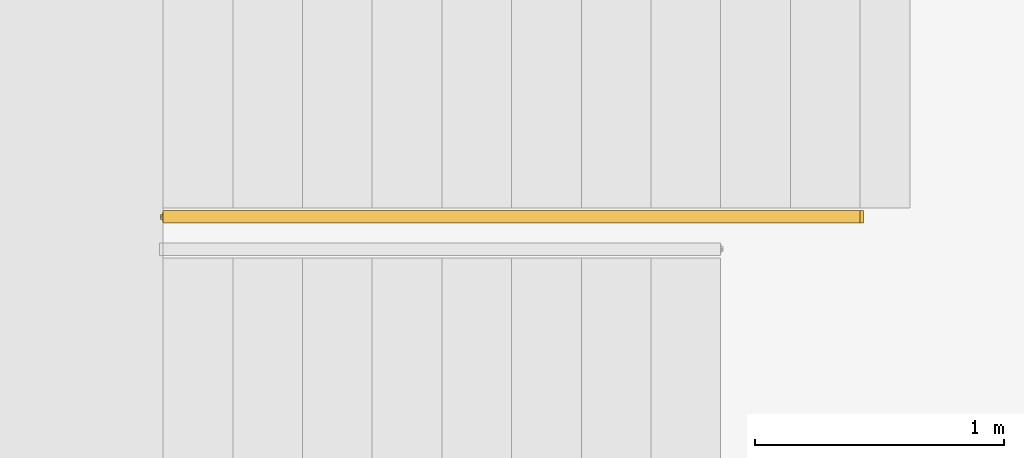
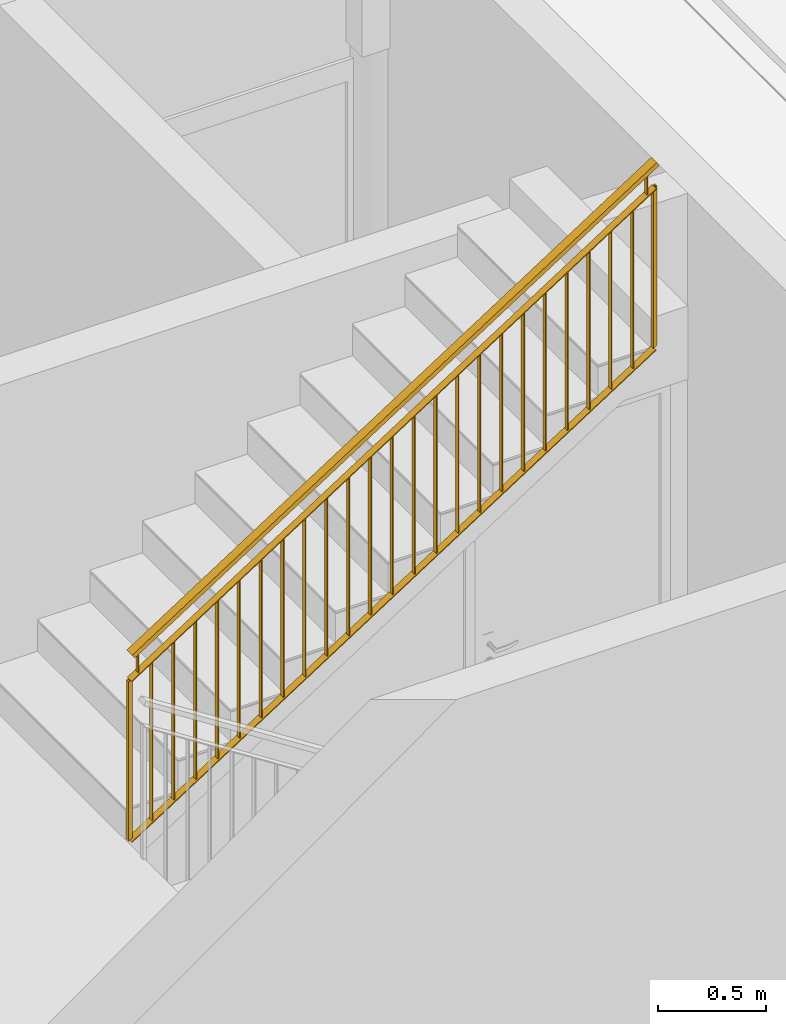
# One storey, part 16 of 25: 1 railing.
"""IFC2X3 building model written with IfcOpenShell, lengths in millimetres."""

from ifc_helpers import new_model, entity, si_unit, converted_unit, derived_unit, money_unit, direction, frame, origin_with_axes, place, context, subcontext, project, spatial, faceted_brep, material, material_list, type_object, element, save


model = new_model("IFC2X3")

# Units and contexts
model_context = context("Model", 3, precision=0.01, world=origin_with_axes(), true_north=direction((0.34421633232, 0.938890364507)))
body_context = subcontext(model_context, "Body", "Model", "MODEL_VIEW")
ifc_project = project(units=[si_unit("LENGTHUNIT", "METRE", prefix="MILLI"), si_unit("AREAUNIT", "SQUARE_METRE"), si_unit("VOLUMEUNIT", "CUBIC_METRE"), converted_unit("PLANEANGLEUNIT", "DEGREE", entity("IfcPlaneAngleMeasure", 0.0174532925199), si_unit("PLANEANGLEUNIT", "RADIAN"), dimensions=[0, 0, 0, 0, 0, 0, 0]), si_unit("SOLIDANGLEUNIT", "STERADIAN"), money_unit("USD"), converted_unit("TIMEUNIT", "Year", entity("IfcTimeMeasure", 31556926.0), si_unit("TIMEUNIT", "SECOND"), dimensions=[0, 0, 1, 0, 0, 0, 0]), si_unit("MASSUNIT", "GRAM", prefix="KILO"), si_unit("THERMODYNAMICTEMPERATUREUNIT", "DEGREE_CELSIUS"), si_unit("LUMINOUSINTENSITYUNIT", "LUMEN"), si_unit("ENERGYUNIT", "JOULE", prefix="MEGA"), derived_unit("THERMALCONDUCTANCEUNIT", [(si_unit("POWERUNIT", "WATT"), 1), (si_unit("LENGTHUNIT", "METRE"), -1), (si_unit("THERMODYNAMICTEMPERATUREUNIT", "KELVIN"), -1)]), derived_unit("SPECIFICHEATCAPACITYUNIT", [(si_unit("ENERGYUNIT", "JOULE"), 1), (si_unit("MASSUNIT", "GRAM", prefix="KILO"), -1), (si_unit("THERMODYNAMICTEMPERATUREUNIT", "KELVIN"), -1)]), derived_unit("MASSDENSITYUNIT", [(si_unit("MASSUNIT", "GRAM", prefix="KILO"), 1), (si_unit("VOLUMEUNIT", "CUBIC_METRE"), -1)])], contexts=[model_context])

# Site, building, storey
site_placement = place(None, origin_with_axes())
site = spatial("IfcSite", under=ifc_project, at=site_placement, Name="USTRONIE MORSKIE", CompositionType="ELEMENT")
building_placement = place(site_placement, origin_with_axes())
building = spatial("IfcBuilding", under=site, at=building_placement, Name="Budynek", CompositionType="ELEMENT")
storey_placement = place(building_placement, frame((0.0, 0.0, -3600.0), z_axis=(0.0, 0.0, 1.0), x_axis=(1.0, 0.0, 0.0)))
storey = spatial("IfcBuildingStorey", under=building, at=storey_placement, Name="GARAZ", CompositionType="ELEMENT", Elevation=-3600.0)

# Railing
ifc_material_1 = material(Name="Stal konstrukcyjna")
ifc_material_2 = material(Name="Stal nierdzewna")
ifc_material_list = material_list([ifc_material_1, ifc_material_1, ifc_material_2, ifc_material_2, ifc_material_2, ifc_material_1, ifc_material_1, ifc_material_1, ifc_material_1, ifc_material_1, ifc_material_1, ifc_material_1, ifc_material_1, ifc_material_1, ifc_material_1, ifc_material_1, ifc_material_1, ifc_material_1, ifc_material_1, ifc_material_1, ifc_material_1, ifc_material_1, ifc_material_1, ifc_material_1, ifc_material_1, ifc_material_1, ifc_material_1, ifc_material_1])
railing_type = type_object("IfcRailingType", Name="Typ balustrady", PredefinedType="NOTDEFINED")
railing_placement = place(storey_placement, frame((410217.920919, 728501.199036, 1800.0), z_axis=(0.0, 0.0, 1.0), x_axis=(1.0, 0.0, 0.0)))
element("IfcRailing", 1, at=railing_placement, inside=storey, type_object=railing_type, material=ifc_material_list, Name="BL1", PredefinedType="NOTDEFINED", context=body_context, shape_type="Brep", body=[
    faceted_brep([(9.99999999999, -45.0, -143.571428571), (9.99999999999, -25.0, -143.571428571), (9.99999999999, -25.0, 756.428571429), (9.99999999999, -45.0, 756.428571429), (-9.99999999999, -45.0, -156.428571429), (-9.99999999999, -25.0, -156.428571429), (5.0, -40.0, -146.785714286), (5.0, -30.0, -146.785714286), (-5.0, -30.0, -153.214285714), (-5.0, -40.0, -153.214285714), (-9.99999999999, -25.0, 743.571428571), (-9.99999999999, -45.0, 743.571428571), (5.0, -40.0, 753.214285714), (-5.0, -40.0, 746.785714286), (-5.0, -30.0, 746.785714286), (5.0, -30.0, 753.214285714)], [[[0, 1, 2, 3]], [[0, 4, 5, 1], [6, 7, 8, 9]], [[1, 5, 10, 2]], [[3, 2, 10, 11], [12, 13, 14, 15]], [[4, 0, 3, 11]], [[5, 4, 11, 10]], [[7, 6, 12, 15]], [[8, 7, 15, 14]], [[9, 8, 14, 13]], [[6, 9, 13, 12]]]),
    faceted_brep([(2810.0, -45.0, 1656.42857143), (2810.0, -25.0, 1656.42857143), (2810.0, -25.0, 2556.42857143), (2810.0, -45.0, 2556.42857143), (2790.0, -45.0, 1643.57142857), (2790.0, -25.0, 1643.57142857), (2805.0, -40.0, 1653.21428571), (2805.0, -30.0, 1653.21428571), (2795.0, -30.0, 1646.78571429), (2795.0, -40.0, 1646.78571429), (2790.0, -25.0, 2543.57142857), (2790.0, -45.0, 2543.57142857), (2805.0, -40.0, 2553.21428571), (2795.0, -40.0, 2546.78571429), (2795.0, -30.0, 2546.78571429), (2805.0, -30.0, 2553.21428571)], [[[0, 1, 2, 3]], [[0, 4, 5, 1], [6, 7, 8, 9]], [[1, 5, 10, 2]], [[3, 2, 10, 11], [12, 13, 14, 15]], [[4, 0, 3, 11]], [[5, 4, 11, 10]], [[7, 6, 12, 15]], [[8, 7, 15, 14]], [[9, 8, 14, 13]], [[6, 9, 13, 12]]]),
    faceted_brep([(0.0, -59.9999999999, 900.0), (13.5189397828, -59.9999999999, 878.970538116), (2813.51893978, -59.9999999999, 2678.97053812), (2800.0, -59.9999999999, 2700.0), (0.0, -9.99999999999, 900.0), (13.5189397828, -9.99999999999, 878.970538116), (13.5189397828, -25.0, 878.970538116), (10.8151518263, -25.0, 883.176430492), (10.8151518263, -45.0, 883.176430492), (13.5189397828, -45.0, 878.970538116), (2813.51893978, -45.0, 2678.97053812), (2810.81515183, -45.0, 2683.17643049), (2810.81515183, -25.0, 2683.17643049), (2813.51893978, -25.0, 2678.97053812), (2813.51893978, -9.99999999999, 2678.97053812), (2800.0, -9.99999999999, 2700.0)], [[[0, 1, 2, 3]], [[0, 4, 5, 6, 7, 8, 9, 1]], [[1, 9, 10, 2]], [[3, 2, 10, 11, 12, 13, 14, 15]], [[4, 0, 3, 15]], [[5, 4, 15, 14]], [[6, 5, 14, 13]], [[7, 6, 13, 12]], [[8, 7, 12, 11]], [[9, 8, 11, 10]]]),
    faceted_brep([(13.5189397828, -45.0, 878.970538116), (13.5189397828, -25.0, 878.970538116), (2813.51893978, -25.0, 2678.97053812), (2813.51893978, -45.0, 2678.97053812), (10.8151518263, -45.0, 883.176430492), (10.8151518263, -25.0, 883.176430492), (2810.81515183, -25.0, 2683.17643049), (2810.81515183, -45.0, 2683.17643049)], [[[0, 1, 2, 3]], [[0, 4, 5, 1]], [[1, 5, 6, 2]], [[3, 2, 6, 7]], [[4, 0, 3, 7]], [[5, 4, 7, 6]]]),
    faceted_brep([(44.5589237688, -45.0, 777.317670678), (44.5589237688, -25.0, 777.317670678), (44.5589237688, -25.0, 898.924813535), (44.5589237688, -45.0, 898.924813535), (39.5589237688, -45.0, 777.317670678), (39.5589237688, -25.0, 777.317670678), (39.5589237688, -25.0, 897.317670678), (42.0589237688, -25.0, 898.924813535), (42.0589237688, -45.0, 898.924813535), (39.5589237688, -45.0, 897.317670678)], [[[0, 1, 2, 3]], [[0, 4, 5, 1]], [[1, 5, 6, 7, 2]], [[3, 2, 7, 8]], [[4, 0, 3, 8, 9]], [[5, 4, 9, 6]], [[7, 6, 9, 8]]]),
    faceted_brep([(2760.44107623, -45.0, 2523.24191155), (2760.44107623, -25.0, 2523.24191155), (2760.44107623, -25.0, 2644.8490544), (2760.44107623, -45.0, 2644.8490544), (2755.44107623, -45.0, 2523.24191155), (2755.44107623, -25.0, 2523.24191155), (2755.44107623, -25.0, 2643.24191155), (2757.94107623, -25.0, 2644.8490544), (2757.94107623, -45.0, 2644.8490544), (2755.44107623, -45.0, 2643.24191155)], [[[0, 1, 2, 3]], [[0, 4, 5, 1]], [[1, 5, 6, 7, 2]], [[3, 2, 7, 8]], [[4, 0, 3, 8, 9]], [[5, 4, 9, 6]], [[7, 6, 9, 8]]]),
    faceted_brep([(0.0, -54.9999999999, 750.0), (2.70378795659, -54.9999999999, 745.794107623), (2802.70378796, -54.9999999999, 2545.79410762), (2800.0, -54.9999999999, 2550.0), (0.0, -15.0, 750.0), (2.70378795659, -15.0, 745.794107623), (2802.70378796, -15.0, 2545.79410762), (2800.0, -15.0, 2550.0)], [[[0, 1, 2, 3]], [[0, 4, 5, 1]], [[1, 5, 6, 2]], [[3, 2, 6, 7]], [[4, 0, 3, 7]], [[5, 4, 7, 6]]]),
    faceted_brep([(-1.35189397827, -54.9999999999, -157.897053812), (1.35189397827, -54.9999999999, -162.102946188), (2801.35189398, -54.9999999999, 1637.89705381), (2798.64810602, -54.9999999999, 1642.10294619), (-1.35189397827, -15.0, -157.897053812), (1.35189397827, -15.0, -162.102946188), (2801.35189398, -15.0, 1637.89705381), (2798.64810602, -15.0, 1642.10294619)], [[[0, 1, 2, 3]], [[0, 4, 5, 1]], [[1, 5, 6, 2]], [[3, 2, 6, 7]], [[4, 0, 3, 7]], [[5, 4, 7, 6]]]),
    faceted_brep([(119.166666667, -47.5, -78.3928571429), (119.166666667, -22.4999999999, -78.3928571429), (119.166666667, -22.4999999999, 821.607142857), (119.166666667, -47.5, 821.607142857), (114.166666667, -47.5, -81.6071428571), (114.166666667, -22.4999999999, -81.6071428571), (114.166666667, -22.4999999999, 818.392857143), (114.166666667, -47.5, 818.392857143)], [[[0, 1, 2, 3]], [[0, 4, 5, 1]], [[1, 5, 6, 2]], [[3, 2, 6, 7]], [[4, 0, 3, 7]], [[5, 4, 7, 6]]]),
    faceted_brep([(235.833333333, -47.5, -3.39285714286), (235.833333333, -22.4999999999, -3.39285714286), (235.833333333, -22.4999999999, 896.607142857), (235.833333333, -47.5, 896.607142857), (230.833333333, -47.5, -6.60714285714), (230.833333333, -22.4999999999, -6.60714285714), (230.833333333, -22.4999999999, 893.392857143), (230.833333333, -47.5, 893.392857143)], [[[0, 1, 2, 3]], [[0, 4, 5, 1]], [[1, 5, 6, 2]], [[3, 2, 6, 7]], [[4, 0, 3, 7]], [[5, 4, 7, 6]]]),
    faceted_brep([(352.5, -47.5, 71.6071428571), (352.5, -22.4999999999, 71.6071428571), (352.5, -22.4999999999, 971.607142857), (352.5, -47.5, 971.607142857), (347.5, -47.5, 68.3928571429), (347.5, -22.4999999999, 68.3928571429), (347.5, -22.4999999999, 968.392857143), (347.5, -47.5, 968.392857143)], [[[0, 1, 2, 3]], [[0, 4, 5, 1]], [[1, 5, 6, 2]], [[3, 2, 6, 7]], [[4, 0, 3, 7]], [[5, 4, 7, 6]]]),
    faceted_brep([(469.166666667, -47.5, 146.607142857), (469.166666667, -22.4999999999, 146.607142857), (469.166666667, -22.4999999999, 1046.60714286), (469.166666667, -47.5, 1046.60714286), (464.166666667, -47.5, 143.392857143), (464.166666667, -22.4999999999, 143.392857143), (464.166666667, -22.4999999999, 1043.39285714), (464.166666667, -47.5, 1043.39285714)], [[[0, 1, 2, 3]], [[0, 4, 5, 1]], [[1, 5, 6, 2]], [[3, 2, 6, 7]], [[4, 0, 3, 7]], [[5, 4, 7, 6]]]),
    faceted_brep([(585.833333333, -47.5, 221.607142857), (585.833333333, -22.4999999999, 221.607142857), (585.833333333, -22.4999999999, 1121.60714286), (585.833333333, -47.5, 1121.60714286), (580.833333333, -47.5, 218.392857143), (580.833333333, -22.4999999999, 218.392857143), (580.833333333, -22.4999999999, 1118.39285714), (580.833333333, -47.5, 1118.39285714)], [[[0, 1, 2, 3]], [[0, 4, 5, 1]], [[1, 5, 6, 2]], [[3, 2, 6, 7]], [[4, 0, 3, 7]], [[5, 4, 7, 6]]]),
    faceted_brep([(702.5, -47.5, 296.607142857), (702.5, -22.4999999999, 296.607142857), (702.5, -22.4999999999, 1196.60714286), (702.5, -47.5, 1196.60714286), (697.5, -47.5, 293.392857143), (697.5, -22.4999999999, 293.392857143), (697.5, -22.4999999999, 1193.39285714), (697.5, -47.5, 1193.39285714)], [[[0, 1, 2, 3]], [[0, 4, 5, 1]], [[1, 5, 6, 2]], [[3, 2, 6, 7]], [[4, 0, 3, 7]], [[5, 4, 7, 6]]]),
    faceted_brep([(819.166666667, -47.5, 371.607142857), (819.166666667, -22.4999999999, 371.607142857), (819.166666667, -22.4999999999, 1271.60714286), (819.166666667, -47.5, 1271.60714286), (814.166666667, -47.5, 368.392857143), (814.166666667, -22.4999999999, 368.392857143), (814.166666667, -22.4999999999, 1268.39285714), (814.166666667, -47.5, 1268.39285714)], [[[0, 1, 2, 3]], [[0, 4, 5, 1]], [[1, 5, 6, 2]], [[3, 2, 6, 7]], [[4, 0, 3, 7]], [[5, 4, 7, 6]]]),
    faceted_brep([(935.833333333, -47.5, 446.607142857), (935.833333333, -22.4999999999, 446.607142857), (935.833333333, -22.4999999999, 1346.60714286), (935.833333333, -47.5, 1346.60714286), (930.833333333, -47.5, 443.392857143), (930.833333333, -22.4999999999, 443.392857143), (930.833333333, -22.4999999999, 1343.39285714), (930.833333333, -47.5, 1343.39285714)], [[[0, 1, 2, 3]], [[0, 4, 5, 1]], [[1, 5, 6, 2]], [[3, 2, 6, 7]], [[4, 0, 3, 7]], [[5, 4, 7, 6]]]),
    faceted_brep([(1052.5, -47.5, 521.607142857), (1052.5, -22.4999999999, 521.607142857), (1052.5, -22.4999999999, 1421.60714286), (1052.5, -47.5, 1421.60714286), (1047.5, -47.5, 518.392857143), (1047.5, -22.4999999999, 518.392857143), (1047.5, -22.4999999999, 1418.39285714), (1047.5, -47.5, 1418.39285714)], [[[0, 1, 2, 3]], [[0, 4, 5, 1]], [[1, 5, 6, 2]], [[3, 2, 6, 7]], [[4, 0, 3, 7]], [[5, 4, 7, 6]]]),
    faceted_brep([(1169.16666667, -47.5, 596.607142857), (1169.16666667, -22.4999999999, 596.607142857), (1169.16666667, -22.4999999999, 1496.60714286), (1169.16666667, -47.5, 1496.60714286), (1164.16666667, -47.5, 593.392857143), (1164.16666667, -22.4999999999, 593.392857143), (1164.16666667, -22.4999999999, 1493.39285714), (1164.16666667, -47.5, 1493.39285714)], [[[0, 1, 2, 3]], [[0, 4, 5, 1]], [[1, 5, 6, 2]], [[3, 2, 6, 7]], [[4, 0, 3, 7]], [[5, 4, 7, 6]]]),
    faceted_brep([(1285.83333333, -47.5, 671.607142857), (1285.83333333, -22.4999999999, 671.607142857), (1285.83333333, -22.4999999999, 1571.60714286), (1285.83333333, -47.5, 1571.60714286), (1280.83333333, -47.5, 668.392857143), (1280.83333333, -22.4999999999, 668.392857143), (1280.83333333, -22.4999999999, 1568.39285714), (1280.83333333, -47.5, 1568.39285714)], [[[0, 1, 2, 3]], [[0, 4, 5, 1]], [[1, 5, 6, 2]], [[3, 2, 6, 7]], [[4, 0, 3, 7]], [[5, 4, 7, 6]]]),
    faceted_brep([(1402.5, -47.5, 746.607142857), (1402.5, -22.4999999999, 746.607142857), (1402.5, -22.4999999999, 1646.60714286), (1402.5, -47.5, 1646.60714286), (1397.5, -47.5, 743.392857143), (1397.5, -22.4999999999, 743.392857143), (1397.5, -22.4999999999, 1643.39285714), (1397.5, -47.5, 1643.39285714)], [[[0, 1, 2, 3]], [[0, 4, 5, 1]], [[1, 5, 6, 2]], [[3, 2, 6, 7]], [[4, 0, 3, 7]], [[5, 4, 7, 6]]]),
    faceted_brep([(1519.16666667, -47.5, 821.607142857), (1519.16666667, -22.4999999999, 821.607142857), (1519.16666667, -22.4999999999, 1721.60714286), (1519.16666667, -47.5, 1721.60714286), (1514.16666667, -47.5, 818.392857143), (1514.16666667, -22.4999999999, 818.392857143), (1514.16666667, -22.4999999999, 1718.39285714), (1514.16666667, -47.5, 1718.39285714)], [[[0, 1, 2, 3]], [[0, 4, 5, 1]], [[1, 5, 6, 2]], [[3, 2, 6, 7]], [[4, 0, 3, 7]], [[5, 4, 7, 6]]]),
    faceted_brep([(1635.83333333, -47.5, 896.607142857), (1635.83333333, -22.4999999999, 896.607142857), (1635.83333333, -22.4999999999, 1796.60714286), (1635.83333333, -47.5, 1796.60714286), (1630.83333333, -47.5, 893.392857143), (1630.83333333, -22.4999999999, 893.392857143), (1630.83333333, -22.4999999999, 1793.39285714), (1630.83333333, -47.5, 1793.39285714)], [[[0, 1, 2, 3]], [[0, 4, 5, 1]], [[1, 5, 6, 2]], [[3, 2, 6, 7]], [[4, 0, 3, 7]], [[5, 4, 7, 6]]]),
    faceted_brep([(1752.5, -47.5, 971.607142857), (1752.5, -22.4999999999, 971.607142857), (1752.5, -22.4999999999, 1871.60714286), (1752.5, -47.5, 1871.60714286), (1747.5, -47.5, 968.392857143), (1747.5, -22.4999999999, 968.392857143), (1747.5, -22.4999999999, 1868.39285714), (1747.5, -47.5, 1868.39285714)], [[[0, 1, 2, 3]], [[0, 4, 5, 1]], [[1, 5, 6, 2]], [[3, 2, 6, 7]], [[4, 0, 3, 7]], [[5, 4, 7, 6]]]),
    faceted_brep([(1869.16666667, -47.5, 1046.60714286), (1869.16666667, -22.4999999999, 1046.60714286), (1869.16666667, -22.4999999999, 1946.60714286), (1869.16666667, -47.5, 1946.60714286), (1864.16666667, -47.5, 1043.39285714), (1864.16666667, -22.4999999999, 1043.39285714), (1864.16666667, -22.4999999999, 1943.39285714), (1864.16666667, -47.5, 1943.39285714)], [[[0, 1, 2, 3]], [[0, 4, 5, 1]], [[1, 5, 6, 2]], [[3, 2, 6, 7]], [[4, 0, 3, 7]], [[5, 4, 7, 6]]]),
    faceted_brep([(1985.83333333, -47.5, 1121.60714286), (1985.83333333, -22.4999999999, 1121.60714286), (1985.83333333, -22.4999999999, 2021.60714286), (1985.83333333, -47.5, 2021.60714286), (1980.83333333, -47.5, 1118.39285714), (1980.83333333, -22.4999999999, 1118.39285714), (1980.83333333, -22.4999999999, 2018.39285714), (1980.83333333, -47.5, 2018.39285714)], [[[0, 1, 2, 3]], [[0, 4, 5, 1]], [[1, 5, 6, 2]], [[3, 2, 6, 7]], [[4, 0, 3, 7]], [[5, 4, 7, 6]]]),
    faceted_brep([(2102.5, -47.5, 1196.60714286), (2102.5, -22.4999999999, 1196.60714286), (2102.5, -22.4999999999, 2096.60714286), (2102.5, -47.5, 2096.60714286), (2097.5, -47.5, 1193.39285714), (2097.5, -22.4999999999, 1193.39285714), (2097.5, -22.4999999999, 2093.39285714), (2097.5, -47.5, 2093.39285714)], [[[0, 1, 2, 3]], [[0, 4, 5, 1]], [[1, 5, 6, 2]], [[3, 2, 6, 7]], [[4, 0, 3, 7]], [[5, 4, 7, 6]]]),
    faceted_brep([(2219.16666667, -47.5, 1271.60714286), (2219.16666667, -22.4999999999, 1271.60714286), (2219.16666667, -22.4999999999, 2171.60714286), (2219.16666667, -47.5, 2171.60714286), (2214.16666667, -47.5, 1268.39285714), (2214.16666667, -22.4999999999, 1268.39285714), (2214.16666667, -22.4999999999, 2168.39285714), (2214.16666667, -47.5, 2168.39285714)], [[[0, 1, 2, 3]], [[0, 4, 5, 1]], [[1, 5, 6, 2]], [[3, 2, 6, 7]], [[4, 0, 3, 7]], [[5, 4, 7, 6]]]),
    faceted_brep([(2335.83333333, -47.5, 1346.60714286), (2335.83333333, -22.4999999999, 1346.60714286), (2335.83333333, -22.4999999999, 2246.60714286), (2335.83333333, -47.5, 2246.60714286), (2330.83333333, -47.5, 1343.39285714), (2330.83333333, -22.4999999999, 1343.39285714), (2330.83333333, -22.4999999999, 2243.39285714), (2330.83333333, -47.5, 2243.39285714)], [[[0, 1, 2, 3]], [[0, 4, 5, 1]], [[1, 5, 6, 2]], [[3, 2, 6, 7]], [[4, 0, 3, 7]], [[5, 4, 7, 6]]]),
    faceted_brep([(2452.5, -47.5, 1421.60714286), (2452.5, -22.4999999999, 1421.60714286), (2452.5, -22.4999999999, 2321.60714286), (2452.5, -47.5, 2321.60714286), (2447.5, -47.5, 1418.39285714), (2447.5, -22.4999999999, 1418.39285714), (2447.5, -22.4999999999, 2318.39285714), (2447.5, -47.5, 2318.39285714)], [[[0, 1, 2, 3]], [[0, 4, 5, 1]], [[1, 5, 6, 2]], [[3, 2, 6, 7]], [[4, 0, 3, 7]], [[5, 4, 7, 6]]]),
    faceted_brep([(2569.16666667, -47.5, 1496.60714286), (2569.16666667, -22.4999999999, 1496.60714286), (2569.16666667, -22.4999999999, 2396.60714286), (2569.16666667, -47.5, 2396.60714286), (2564.16666667, -47.5, 1493.39285714), (2564.16666667, -22.4999999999, 1493.39285714), (2564.16666667, -22.4999999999, 2393.39285714), (2564.16666667, -47.5, 2393.39285714)], [[[0, 1, 2, 3]], [[0, 4, 5, 1]], [[1, 5, 6, 2]], [[3, 2, 6, 7]], [[4, 0, 3, 7]], [[5, 4, 7, 6]]]),
    faceted_brep([(2685.83333333, -47.5, 1571.60714286), (2685.83333333, -22.4999999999, 1571.60714286), (2685.83333333, -22.4999999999, 2471.60714286), (2685.83333333, -47.5, 2471.60714286), (2680.83333333, -47.5, 1568.39285714), (2680.83333333, -22.4999999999, 1568.39285714), (2680.83333333, -22.4999999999, 2468.39285714), (2680.83333333, -47.5, 2468.39285714)], [[[0, 1, 2, 3]], [[0, 4, 5, 1]], [[1, 5, 6, 2]], [[3, 2, 6, 7]], [[4, 0, 3, 7]], [[5, 4, 7, 6]]]),
])

save(model, "model.ifc")
